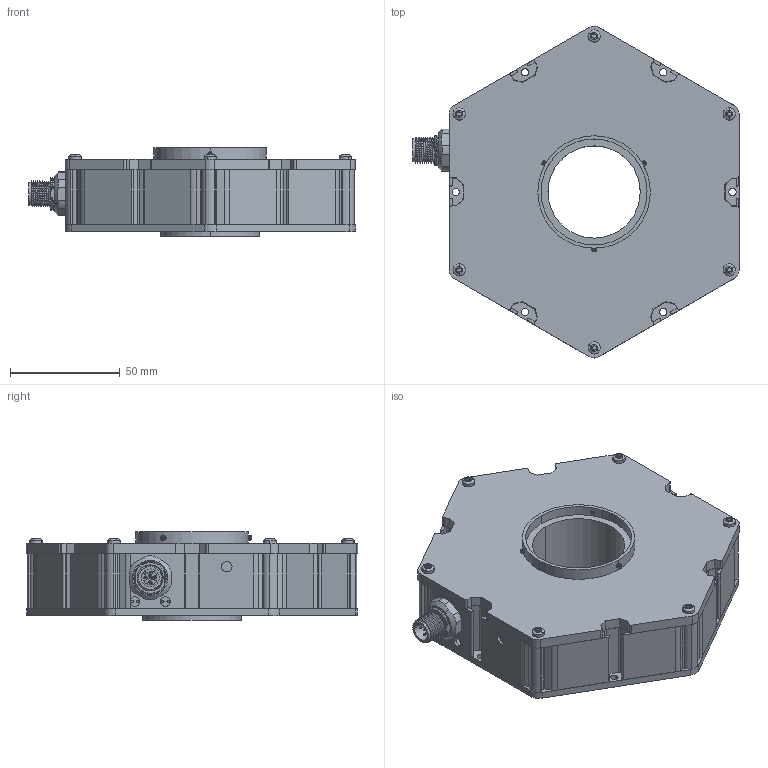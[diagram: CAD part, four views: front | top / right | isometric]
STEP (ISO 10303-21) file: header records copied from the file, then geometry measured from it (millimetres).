
FILE_DESCRIPTION (( 'STEP AP214' ), '1' );
FILE_NAME ('RD130.STEP', '2019-07-16T19:06:50', ( '' ), ( '' ), 'SwSTEP 2.0', 'SolidWorks 2019', '' );
FILE_SCHEMA (( 'AUTOMOTIVE_DESIGN' ));
Length unit declared in the file: millimetre
Products named in the file (12): 92605A042_92605A042; R80-Extrustion-25mm_Driver; R130-SC_48.5; 90925A108; M12 Nut; R80-Extrustion-25mm; PCB-00271-12; M12_Male; Center Tube; 90033A105_90033A105; RD130; PCB-00362-07
Assembly tree (28 placements, depth 2):
  RD130
    PCB-00271-12
    R80-Extrustion-25mm_Driver
    R80-Extrustion-25mm  x5
    R130-SC_48.5
    PCB-00362-07  x2
    M12 Nut
    M12_Male
    Center Tube
    90033A105_90033A105  x6
    92605A042_92605A042  x3
    90925A108  x6
Bounding box: 148.56 x 151.18 x 40.45 mm (x, y, z)
Volume: 147924.7 mm3; surface area: 117027.8 mm2
Topology: 28 solids, 29 shells, 1974 faces, 5329 edges, 3441 vertices
Faces by surface type: cylinder 981, plane 447, cone 355, bspline 151, torus 40
Entity records: 51024 total; most frequent: CARTESIAN_POINT 27871, ORIENTED_EDGE 4458, DIRECTION 4123, EDGE_CURVE 2229, AXIS2_PLACEMENT_3D 1583, VERTEX_POINT 1456, VECTOR 957, LINE 957
